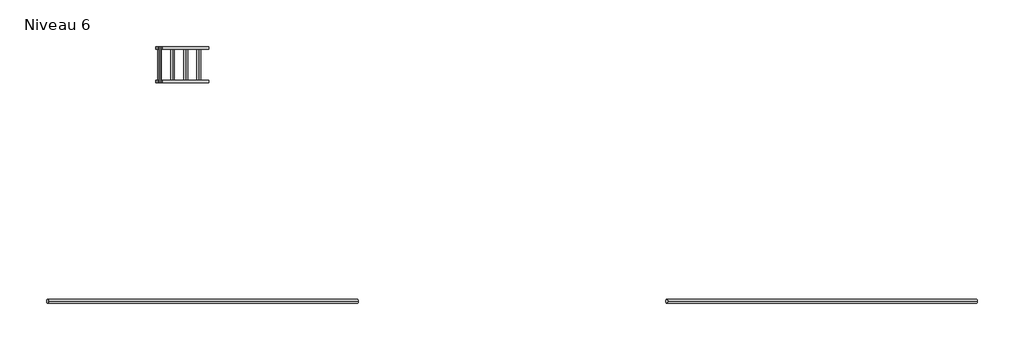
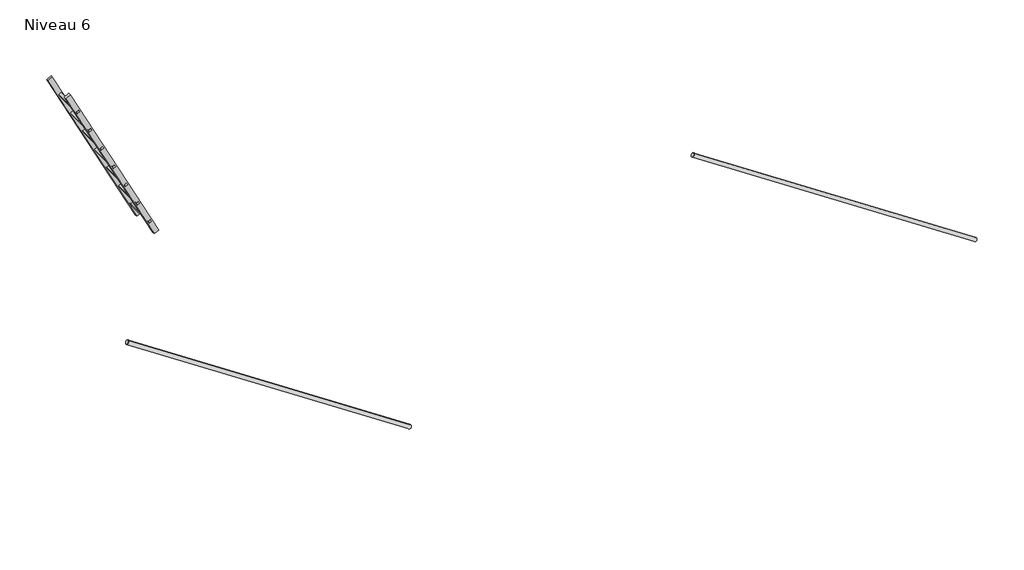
# One storey, incomplete: 3 proxies.
"""IFC4 building model written with IfcOpenShell, lengths in millimetres."""

from ifc_helpers import new_model, si_unit, origin, place, context, project, spatial, transform, mapped, element, save
from components import single_ladder_20e57597, d300200_67c6fa93

model = new_model("IFC4")

# Units and contexts
model_context = context("Model", 3, world=origin())
ifc_project = project(units=[si_unit("LENGTHUNIT", "METRE", prefix="MILLI")], contexts=[model_context])

# Site, building, storey
site = spatial("IfcSite", under=ifc_project)
building = spatial("IfcBuilding", under=site)
storey = spatial("IfcBuildingStorey", under=building, Name="Niveau 6", Elevation=3300.0)

# Proxies
placement = place(None, origin())
single_ladder_shape = single_ladder_20e57597(model_context)
element("IfcBuildingElementProxy", 1, Name="Echelle : Single Ladder", ObjectType="Echelle : Single Ladder", at=placement, inside=storey, context=model_context, shape_type="MappedRepresentation", body=[
    mapped(single_ladder_shape, transform((-9544.1523634, -3670.1799631, 3598.939547), x_axis=(-0.4539904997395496, 0.0, 0.8910065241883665), y_axis=(0.8910065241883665, 0.0, 0.4539904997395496), z_axis=(0.0, 1.0, 0.0))),
])
d300200_shape = d300200_67c6fa93(model_context)
element("IfcBuildingElementProxy", 2, Name="MILLS_ACRAM_DIAGONALE : d300200", ObjectType="MILLS_ACRAM_DIAGONALE : d300200", at=placement, inside=storey, context=model_context, shape_type="MappedRepresentation", body=[
    mapped(d300200_shape, transform((-8727.7076504, -5872.5033951, 2183.8659604), x_axis=(-1.0, 0.0, 0.0), y_axis=(0.0, -1.0, 0.0), z_axis=(0.0, 0.0, 1.0))),
])
element("IfcBuildingElementProxy", 3, Name="MILLS_ACRAM_DIAGONALE : d300200", ObjectType="MILLS_ACRAM_DIAGONALE : d300200", at=placement, inside=storey, context=model_context, shape_type="MappedRepresentation", body=[
    mapped(d300200_shape, transform((-2723.3552314, -5872.5033951, 2183.8659604), x_axis=(-1.0, 0.0, 0.0), y_axis=(0.0, -1.0, 0.0), z_axis=(0.0, 0.0, 1.0))),
])

save(model, "model.ifc")
